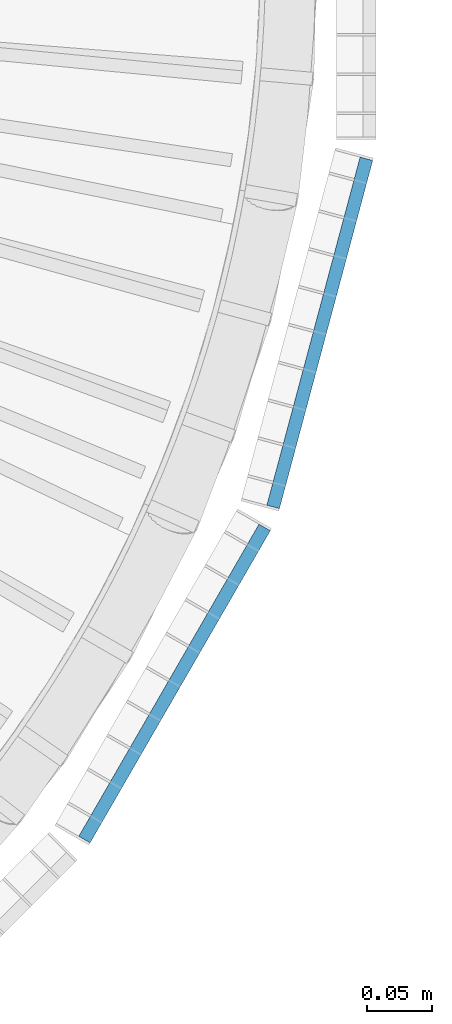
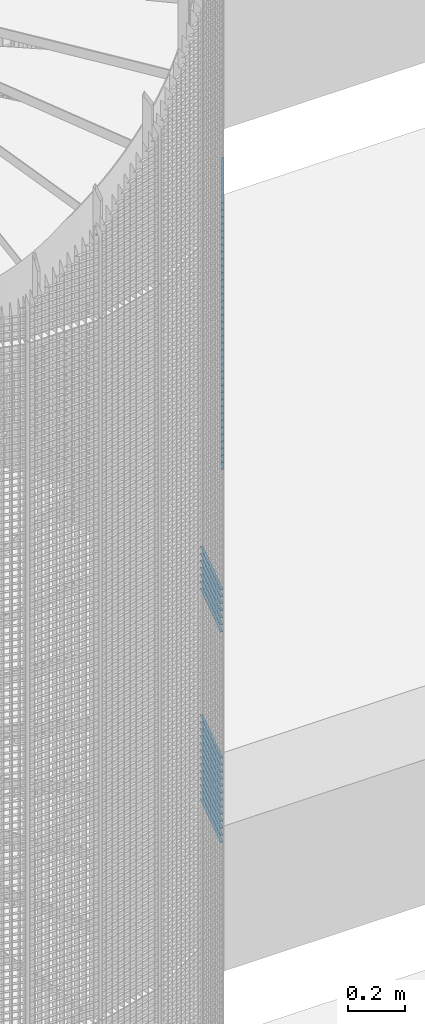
# One storey, part 238 of 1183: 59 beams, 2 elements without a shape of their own.
"""IFC2X3 building model written with IfcOpenShell, lengths in millimetres."""

from ifc_helpers import new_model, si_unit, frame, origin_with_axes, origin_2d_with_axis, place, context, subcontext, project, spatial, rectangle, extrude, material, type_object, element, aggregate, save


model = new_model("IFC2X3")

# Units and contexts
model_context = context("Model", 3, precision=1e-05, world=origin_with_axes())
body_context = subcontext(model_context, "Body", "Model", "MODEL_VIEW")
ifc_project = project(units=[si_unit("LENGTHUNIT", "METRE", prefix="MILLI"), si_unit("AREAUNIT", "SQUARE_METRE"), si_unit("VOLUMEUNIT", "CUBIC_METRE"), si_unit("MASSUNIT", "GRAM", prefix="KILO"), si_unit("TIMEUNIT", "SECOND"), si_unit("PLANEANGLEUNIT", "RADIAN"), si_unit("SOLIDANGLEUNIT", "STERADIAN"), si_unit("THERMODYNAMICTEMPERATUREUNIT", "DEGREE_CELSIUS"), si_unit("LUMINOUSINTENSITYUNIT", "LUMEN")], contexts=[model_context])

# Site, building, storey
site_placement = place(None, origin_with_axes())
site = spatial("IfcSite", under=ifc_project, at=site_placement, Name="Undefined", CompositionType="ELEMENT")
building_placement = place(site_placement, origin_with_axes())
building = spatial("IfcBuilding", under=site, at=building_placement, Name="Undefined", CompositionType="ELEMENT")
storey_placement = place(building_placement, origin_with_axes())
storey = spatial("IfcBuildingStorey", under=building, at=storey_placement, Name="Undefined", CompositionType="ELEMENT", Elevation=0.0)

# Assembly, beams
assembly_1_placement = place(storey_placement, origin_with_axes())
assembly_1 = element("IfcElementAssembly", 1, at=assembly_1_placement, inside=storey, Name="BORDURE", AssemblyPlace="NOTDEFINED", PredefinedType="NOTDEFINED")
ifc_material = material(Name="STEEL/S235JR")
beam_type = type_object("IfcBeamType", Name="PL2*10", PredefinedType="NOTDEFINED")
beam_1_placement = place(assembly_1_placement, frame((1039.82309522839, -421.483733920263, 12390.0), z_axis=(0.965925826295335, -0.258819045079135, 0.0), x_axis=(0.258819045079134, 0.965925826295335, 0.0)))
beam_1 = element("IfcBeam", 2, at=beam_1_placement, type_object=beam_type, material=ifc_material, Name="ENTRETOISE", context=body_context, shape_type="SweptSolid", body=[
    extrude(rectangle(XDim=2.0, YDim=10.0, at=origin_2d_with_axis()), frame((275.999999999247, 9.09494701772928e-13, 1.53210777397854e-14), z_axis=(-1.0, 0.0, 0.0), x_axis=(0.0, -1.0, 0.0)), (0.0, 0.0, 1.0), 276.0),
])
beam_2_placement = place(assembly_1_placement, frame((1039.82309522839, -421.483733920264, 12930.0), z_axis=(0.965925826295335, -0.258819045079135, 0.0), x_axis=(0.258819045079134, 0.965925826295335, 0.0)))
beam_2 = element("IfcBeam", 3, at=beam_2_placement, type_object=beam_type, material=ifc_material, Name="ENTRETOISE", context=body_context, shape_type="SweptSolid", body=[
    extrude(rectangle(XDim=2.0, YDim=10.0, at=origin_2d_with_axis()), frame((275.999999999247, 9.09494701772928e-13, 1.53210777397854e-14), z_axis=(-1.0, 0.0, 0.0), x_axis=(0.0, -1.0, 0.0)), (0.0, 0.0, 1.0), 276.0),
])
beam_3_placement = place(assembly_1_placement, frame((1039.82309522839, -421.483733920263, 12360.0), z_axis=(0.965925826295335, -0.258819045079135, 0.0), x_axis=(0.258819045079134, 0.965925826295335, 0.0)))
beam_3 = element("IfcBeam", 4, at=beam_3_placement, type_object=beam_type, material=ifc_material, Name="ENTRETOISE", context=body_context, shape_type="SweptSolid", body=[
    extrude(rectangle(XDim=2.0, YDim=10.0, at=origin_2d_with_axis()), frame((275.999999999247, 9.09494701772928e-13, 1.53210777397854e-14), z_axis=(-1.0, 0.0, 0.0), x_axis=(0.0, -1.0, 0.0)), (0.0, 0.0, 1.0), 276.0),
])
beam_4_placement = place(assembly_1_placement, frame((1039.82309522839, -421.483733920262, 12330.0), z_axis=(0.965925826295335, -0.258819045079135, 0.0), x_axis=(0.258819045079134, 0.965925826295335, 0.0)))
beam_4 = element("IfcBeam", 5, at=beam_4_placement, type_object=beam_type, material=ifc_material, Name="ENTRETOISE", context=body_context, shape_type="SweptSolid", body=[
    extrude(rectangle(XDim=2.0, YDim=10.0, at=origin_2d_with_axis()), frame((275.999999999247, 9.09494701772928e-13, 1.53210777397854e-14), z_axis=(-1.0, 0.0, 0.0), x_axis=(0.0, -1.0, 0.0)), (0.0, 0.0, 1.0), 276.0),
])
beam_5_placement = place(assembly_1_placement, frame((1039.82309522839, -421.483733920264, 12960.0), z_axis=(0.965925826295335, -0.258819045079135, 0.0), x_axis=(0.258819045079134, 0.965925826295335, 0.0)))
beam_5 = element("IfcBeam", 6, at=beam_5_placement, type_object=beam_type, material=ifc_material, Name="ENTRETOISE", context=body_context, shape_type="SweptSolid", body=[
    extrude(rectangle(XDim=2.0, YDim=10.0, at=origin_2d_with_axis()), frame((275.999999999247, 9.09494701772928e-13, 1.53210777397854e-14), z_axis=(-1.0, 0.0, 0.0), x_axis=(0.0, -1.0, 0.0)), (0.0, 0.0, 1.0), 276.0),
])
beam_6_placement = place(assembly_1_placement, frame((1039.82309522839, -421.483733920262, 12300.0), z_axis=(0.965925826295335, -0.258819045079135, 0.0), x_axis=(0.258819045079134, 0.965925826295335, 0.0)))
beam_6 = element("IfcBeam", 7, at=beam_6_placement, type_object=beam_type, material=ifc_material, Name="ENTRETOISE", context=body_context, shape_type="SweptSolid", body=[
    extrude(rectangle(XDim=2.0, YDim=10.0, at=origin_2d_with_axis()), frame((275.999999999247, 9.09494701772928e-13, 1.53210777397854e-14), z_axis=(-1.0, 0.0, 0.0), x_axis=(0.0, -1.0, 0.0)), (0.0, 0.0, 1.0), 276.0),
])
beam_7_placement = place(assembly_1_placement, frame((1039.82309522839, -421.483733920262, 12270.0), z_axis=(0.965925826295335, -0.258819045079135, 0.0), x_axis=(0.258819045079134, 0.965925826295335, 0.0)))
beam_7 = element("IfcBeam", 8, at=beam_7_placement, type_object=beam_type, material=ifc_material, Name="ENTRETOISE", context=body_context, shape_type="SweptSolid", body=[
    extrude(rectangle(XDim=2.0, YDim=10.0, at=origin_2d_with_axis()), frame((275.999999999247, 9.09494701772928e-13, 1.53210777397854e-14), z_axis=(-1.0, 0.0, 0.0), x_axis=(0.0, -1.0, 0.0)), (0.0, 0.0, 1.0), 276.0),
])
beam_8_placement = place(assembly_1_placement, frame((1039.82309522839, -421.483733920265, 12990.0), z_axis=(0.965925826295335, -0.258819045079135, 0.0), x_axis=(0.258819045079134, 0.965925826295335, 0.0)))
beam_8 = element("IfcBeam", 9, at=beam_8_placement, type_object=beam_type, material=ifc_material, Name="ENTRETOISE", context=body_context, shape_type="SweptSolid", body=[
    extrude(rectangle(XDim=2.0, YDim=10.0, at=origin_2d_with_axis()), frame((275.999999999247, 9.09494701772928e-13, 1.53210777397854e-14), z_axis=(-1.0, 0.0, 0.0), x_axis=(0.0, -1.0, 0.0)), (0.0, 0.0, 1.0), 276.0),
])
beam_9_placement = place(assembly_1_placement, frame((1039.82309522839, -421.483733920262, 12240.0), z_axis=(0.965925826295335, -0.258819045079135, 0.0), x_axis=(0.258819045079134, 0.965925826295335, 0.0)))
beam_9 = element("IfcBeam", 10, at=beam_9_placement, type_object=beam_type, material=ifc_material, Name="ENTRETOISE", context=body_context, shape_type="SweptSolid", body=[
    extrude(rectangle(XDim=2.0, YDim=10.0, at=origin_2d_with_axis()), frame((275.999999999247, 9.09494701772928e-13, 1.53210777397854e-14), z_axis=(-1.0, 0.0, 0.0), x_axis=(0.0, -1.0, 0.0)), (0.0, 0.0, 1.0), 276.0),
])
beam_10_placement = place(assembly_1_placement, frame((1039.82309522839, -421.483733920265, 13020.0), z_axis=(0.965925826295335, -0.258819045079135, 0.0), x_axis=(0.258819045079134, 0.965925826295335, 0.0)))
beam_10 = element("IfcBeam", 11, at=beam_10_placement, type_object=beam_type, material=ifc_material, Name="ENTRETOISE", context=body_context, shape_type="SweptSolid", body=[
    extrude(rectangle(XDim=2.0, YDim=10.0, at=origin_2d_with_axis()), frame((275.999999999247, 9.09494701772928e-13, 1.53210777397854e-14), z_axis=(-1.0, 0.0, 0.0), x_axis=(0.0, -1.0, 0.0)), (0.0, 0.0, 1.0), 276.0),
])
beam_11_placement = place(assembly_1_placement, frame((1039.82309522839, -421.483733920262, 12210.0), z_axis=(0.965925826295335, -0.258819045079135, 0.0), x_axis=(0.258819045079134, 0.965925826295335, 0.0)))
beam_11 = element("IfcBeam", 12, at=beam_11_placement, type_object=beam_type, material=ifc_material, Name="ENTRETOISE", context=body_context, shape_type="SweptSolid", body=[
    extrude(rectangle(XDim=2.0, YDim=10.0, at=origin_2d_with_axis()), frame((275.999999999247, 9.09494701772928e-13, 1.53210777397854e-14), z_axis=(-1.0, 0.0, 0.0), x_axis=(0.0, -1.0, 0.0)), (0.0, 0.0, 1.0), 276.0),
])
beam_12_placement = place(assembly_1_placement, frame((1039.82309522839, -421.483733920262, 12180.0), z_axis=(0.965925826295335, -0.258819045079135, 0.0), x_axis=(0.258819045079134, 0.965925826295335, 0.0)))
beam_12 = element("IfcBeam", 13, at=beam_12_placement, type_object=beam_type, material=ifc_material, Name="ENTRETOISE", context=body_context, shape_type="SweptSolid", body=[
    extrude(rectangle(XDim=2.0, YDim=10.0, at=origin_2d_with_axis()), frame((275.999999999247, 9.09494701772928e-13, 1.53210777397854e-14), z_axis=(-1.0, 0.0, 0.0), x_axis=(0.0, -1.0, 0.0)), (0.0, 0.0, 1.0), 276.0),
])
beam_13_placement = place(assembly_1_placement, frame((1039.82309522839, -421.483733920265, 13050.0), z_axis=(0.965925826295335, -0.258819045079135, 0.0), x_axis=(0.258819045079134, 0.965925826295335, 0.0)))
beam_13 = element("IfcBeam", 14, at=beam_13_placement, type_object=beam_type, material=ifc_material, Name="ENTRETOISE", context=body_context, shape_type="SweptSolid", body=[
    extrude(rectangle(XDim=2.0, YDim=10.0, at=origin_2d_with_axis()), frame((275.999999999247, 9.09494701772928e-13, 1.53210777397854e-14), z_axis=(-1.0, 0.0, 0.0), x_axis=(0.0, -1.0, 0.0)), (0.0, 0.0, 1.0), 276.0),
])
beam_14_placement = place(assembly_1_placement, frame((1039.82309522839, -421.483733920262, 12150.0), z_axis=(0.965925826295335, -0.258819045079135, 0.0), x_axis=(0.258819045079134, 0.965925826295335, 0.0)))
beam_14 = element("IfcBeam", 15, at=beam_14_placement, type_object=beam_type, material=ifc_material, Name="ENTRETOISE", context=body_context, shape_type="SweptSolid", body=[
    extrude(rectangle(XDim=2.0, YDim=10.0, at=origin_2d_with_axis()), frame((275.999999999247, 9.09494701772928e-13, 1.53210777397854e-14), z_axis=(-1.0, 0.0, 0.0), x_axis=(0.0, -1.0, 0.0)), (0.0, 0.0, 1.0), 276.0),
])
beam_15_placement = place(assembly_1_placement, frame((1039.82309522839, -421.483733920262, 12120.0), z_axis=(0.965925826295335, -0.258819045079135, 0.0), x_axis=(0.258819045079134, 0.965925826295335, 0.0)))
beam_15 = element("IfcBeam", 16, at=beam_15_placement, type_object=beam_type, material=ifc_material, Name="ENTRETOISE", context=body_context, shape_type="SweptSolid", body=[
    extrude(rectangle(XDim=2.0, YDim=10.0, at=origin_2d_with_axis()), frame((275.999999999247, 9.09494701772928e-13, 1.53210777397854e-14), z_axis=(-1.0, 0.0, 0.0), x_axis=(0.0, -1.0, 0.0)), (0.0, 0.0, 1.0), 276.0),
])
beam_16_placement = place(assembly_1_placement, frame((1039.82309522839, -421.483733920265, 13080.0), z_axis=(0.965925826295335, -0.258819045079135, 0.0), x_axis=(0.258819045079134, 0.965925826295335, 0.0)))
beam_16 = element("IfcBeam", 17, at=beam_16_placement, type_object=beam_type, material=ifc_material, Name="ENTRETOISE", context=body_context, shape_type="SweptSolid", body=[
    extrude(rectangle(XDim=2.0, YDim=10.0, at=origin_2d_with_axis()), frame((275.999999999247, 9.09494701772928e-13, 1.53210777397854e-14), z_axis=(-1.0, 0.0, 0.0), x_axis=(0.0, -1.0, 0.0)), (0.0, 0.0, 1.0), 276.0),
])
beam_17_placement = place(assembly_1_placement, frame((1039.82309522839, -421.483733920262, 12090.0), z_axis=(0.965925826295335, -0.258819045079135, 0.0), x_axis=(0.258819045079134, 0.965925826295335, 0.0)))
beam_17 = element("IfcBeam", 18, at=beam_17_placement, type_object=beam_type, material=ifc_material, Name="ENTRETOISE", context=body_context, shape_type="SweptSolid", body=[
    extrude(rectangle(XDim=2.0, YDim=10.0, at=origin_2d_with_axis()), frame((275.999999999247, 9.09494701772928e-13, 1.53210777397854e-14), z_axis=(-1.0, 0.0, 0.0), x_axis=(0.0, -1.0, 0.0)), (0.0, 0.0, 1.0), 276.0),
])
beam_18_placement = place(assembly_1_placement, frame((1039.82309522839, -421.483733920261, 12060.0), z_axis=(0.965925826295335, -0.258819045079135, 0.0), x_axis=(0.258819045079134, 0.965925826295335, 0.0)))
beam_18 = element("IfcBeam", 19, at=beam_18_placement, type_object=beam_type, material=ifc_material, Name="ENTRETOISE", context=body_context, shape_type="SweptSolid", body=[
    extrude(rectangle(XDim=2.0, YDim=10.0, at=origin_2d_with_axis()), frame((275.999999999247, 9.09494701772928e-13, 1.53210777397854e-14), z_axis=(-1.0, 0.0, 0.0), x_axis=(0.0, -1.0, 0.0)), (0.0, 0.0, 1.0), 276.0),
])
beam_19_placement = place(assembly_1_placement, frame((1039.82309522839, -421.483733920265, 13110.0), z_axis=(0.965925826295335, -0.258819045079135, 0.0), x_axis=(0.258819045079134, 0.965925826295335, 0.0)))
beam_19 = element("IfcBeam", 20, at=beam_19_placement, type_object=beam_type, material=ifc_material, Name="ENTRETOISE", context=body_context, shape_type="SweptSolid", body=[
    extrude(rectangle(XDim=2.0, YDim=10.0, at=origin_2d_with_axis()), frame((275.999999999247, 9.09494701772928e-13, 1.53210777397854e-14), z_axis=(-1.0, 0.0, 0.0), x_axis=(0.0, -1.0, 0.0)), (0.0, 0.0, 1.0), 276.0),
])
beam_20_placement = place(assembly_1_placement, frame((1039.82309522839, -421.48373392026, 12030.0), z_axis=(0.965925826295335, -0.258819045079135, 0.0), x_axis=(0.258819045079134, 0.965925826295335, 0.0)))
beam_20 = element("IfcBeam", 21, at=beam_20_placement, type_object=beam_type, material=ifc_material, Name="ENTRETOISE", context=body_context, shape_type="SweptSolid", body=[
    extrude(rectangle(XDim=2.0, YDim=10.0, at=origin_2d_with_axis()), frame((275.999999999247, 9.09494701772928e-13, 1.53210777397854e-14), z_axis=(-1.0, 0.0, 0.0), x_axis=(0.0, -1.0, 0.0)), (0.0, 0.0, 1.0), 276.0),
])
aggregate(assembly_1, [beam_1, beam_2, beam_3, beam_4, beam_5, beam_6, beam_7, beam_8, beam_9, beam_10, beam_11, beam_12, beam_13, beam_14, beam_15, beam_16, beam_17, beam_18, beam_19, beam_20])

assembly_2_placement = place(storey_placement, origin_with_axes())
assembly_2 = element("IfcElementAssembly", 22, at=assembly_2_placement, inside=storey, Name="BORDURE", AssemblyPlace="NOTDEFINED", PredefinedType="NOTDEFINED")
beam_21_placement = place(assembly_2_placement, frame((895.303964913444, -676.248044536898, 14970.0), z_axis=(0.866025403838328, -0.49999999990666, 0.0), x_axis=(0.49999999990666, 0.866025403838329, 0.0)))
beam_21 = element("IfcBeam", 23, at=beam_21_placement, type_object=beam_type, material=ifc_material, Name="ENTRETOISE", context=body_context, shape_type="SweptSolid", body=[
    extrude(rectangle(XDim=2.0, YDim=10.0, at=origin_2d_with_axis()), frame((275.999999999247, 9.09494701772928e-13, 1.53210777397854e-14), z_axis=(-1.0, 0.0, 0.0), x_axis=(0.0, -1.0, 0.0)), (0.0, 0.0, 1.0), 276.0),
])
beam_22_placement = place(assembly_2_placement, frame((895.303964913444, -676.248044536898, 14940.0), z_axis=(0.866025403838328, -0.49999999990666, 0.0), x_axis=(0.49999999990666, 0.866025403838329, 0.0)))
beam_22 = element("IfcBeam", 24, at=beam_22_placement, type_object=beam_type, material=ifc_material, Name="ENTRETOISE", context=body_context, shape_type="SweptSolid", body=[
    extrude(rectangle(XDim=2.0, YDim=10.0, at=origin_2d_with_axis()), frame((275.999999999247, 9.09494701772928e-13, 1.53210777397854e-14), z_axis=(-1.0, 0.0, 0.0), x_axis=(0.0, -1.0, 0.0)), (0.0, 0.0, 1.0), 276.0),
])
beam_23_placement = place(assembly_2_placement, frame((895.303964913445, -676.248044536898, 14910.0), z_axis=(0.866025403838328, -0.49999999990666, 0.0), x_axis=(0.49999999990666, 0.866025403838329, 0.0)))
beam_23 = element("IfcBeam", 25, at=beam_23_placement, type_object=beam_type, material=ifc_material, Name="ENTRETOISE", context=body_context, shape_type="SweptSolid", body=[
    extrude(rectangle(XDim=2.0, YDim=10.0, at=origin_2d_with_axis()), frame((275.999999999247, 9.09494701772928e-13, 1.53210777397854e-14), z_axis=(-1.0, 0.0, 0.0), x_axis=(0.0, -1.0, 0.0)), (0.0, 0.0, 1.0), 276.0),
])
beam_24_placement = place(assembly_2_placement, frame((895.303964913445, -676.248044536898, 14880.0), z_axis=(0.866025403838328, -0.49999999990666, 0.0), x_axis=(0.49999999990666, 0.866025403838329, 0.0)))
beam_24 = element("IfcBeam", 26, at=beam_24_placement, type_object=beam_type, material=ifc_material, Name="ENTRETOISE", context=body_context, shape_type="SweptSolid", body=[
    extrude(rectangle(XDim=2.0, YDim=10.0, at=origin_2d_with_axis()), frame((275.999999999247, 9.09494701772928e-13, 1.53210777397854e-14), z_axis=(-1.0, 0.0, 0.0), x_axis=(0.0, -1.0, 0.0)), (0.0, 0.0, 1.0), 276.0),
])
beam_25_placement = place(assembly_2_placement, frame((895.303964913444, -676.248044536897, 14850.0), z_axis=(0.866025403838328, -0.49999999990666, 0.0), x_axis=(0.49999999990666, 0.866025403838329, 0.0)))
beam_25 = element("IfcBeam", 27, at=beam_25_placement, type_object=beam_type, material=ifc_material, Name="ENTRETOISE", context=body_context, shape_type="SweptSolid", body=[
    extrude(rectangle(XDim=2.0, YDim=10.0, at=origin_2d_with_axis()), frame((275.999999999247, 9.09494701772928e-13, 1.53210777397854e-14), z_axis=(-1.0, 0.0, 0.0), x_axis=(0.0, -1.0, 0.0)), (0.0, 0.0, 1.0), 276.0),
])
beam_26_placement = place(assembly_2_placement, frame((895.303964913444, -676.248044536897, 14820.0), z_axis=(0.866025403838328, -0.49999999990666, 0.0), x_axis=(0.49999999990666, 0.866025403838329, 0.0)))
beam_26 = element("IfcBeam", 28, at=beam_26_placement, type_object=beam_type, material=ifc_material, Name="ENTRETOISE", context=body_context, shape_type="SweptSolid", body=[
    extrude(rectangle(XDim=2.0, YDim=10.0, at=origin_2d_with_axis()), frame((275.999999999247, 9.09494701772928e-13, 1.53210777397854e-14), z_axis=(-1.0, 0.0, 0.0), x_axis=(0.0, -1.0, 0.0)), (0.0, 0.0, 1.0), 276.0),
])
beam_27_placement = place(assembly_2_placement, frame((895.303964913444, -676.248044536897, 14790.0), z_axis=(0.866025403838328, -0.49999999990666, 0.0), x_axis=(0.49999999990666, 0.866025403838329, 0.0)))
beam_27 = element("IfcBeam", 29, at=beam_27_placement, type_object=beam_type, material=ifc_material, Name="ENTRETOISE", context=body_context, shape_type="SweptSolid", body=[
    extrude(rectangle(XDim=2.0, YDim=10.0, at=origin_2d_with_axis()), frame((275.999999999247, 9.09494701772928e-13, 1.53210777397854e-14), z_axis=(-1.0, 0.0, 0.0), x_axis=(0.0, -1.0, 0.0)), (0.0, 0.0, 1.0), 276.0),
])
beam_28_placement = place(assembly_2_placement, frame((895.303964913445, -676.248044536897, 14760.0), z_axis=(0.866025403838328, -0.49999999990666, 0.0), x_axis=(0.49999999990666, 0.866025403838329, 0.0)))
beam_28 = element("IfcBeam", 30, at=beam_28_placement, type_object=beam_type, material=ifc_material, Name="ENTRETOISE", context=body_context, shape_type="SweptSolid", body=[
    extrude(rectangle(XDim=2.0, YDim=10.0, at=origin_2d_with_axis()), frame((275.999999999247, 9.09494701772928e-13, 1.53210777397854e-14), z_axis=(-1.0, 0.0, 0.0), x_axis=(0.0, -1.0, 0.0)), (0.0, 0.0, 1.0), 276.0),
])
beam_29_placement = place(assembly_2_placement, frame((895.303964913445, -676.248044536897, 14730.0), z_axis=(0.866025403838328, -0.49999999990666, 0.0), x_axis=(0.49999999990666, 0.866025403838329, 0.0)))
beam_29 = element("IfcBeam", 31, at=beam_29_placement, type_object=beam_type, material=ifc_material, Name="ENTRETOISE", context=body_context, shape_type="SweptSolid", body=[
    extrude(rectangle(XDim=2.0, YDim=10.0, at=origin_2d_with_axis()), frame((275.999999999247, 9.09494701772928e-13, 1.53210777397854e-14), z_axis=(-1.0, 0.0, 0.0), x_axis=(0.0, -1.0, 0.0)), (0.0, 0.0, 1.0), 276.0),
])
beam_30_placement = place(assembly_2_placement, frame((895.303964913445, -676.248044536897, 14700.0), z_axis=(0.866025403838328, -0.49999999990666, 0.0), x_axis=(0.49999999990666, 0.866025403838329, 0.0)))
beam_30 = element("IfcBeam", 32, at=beam_30_placement, type_object=beam_type, material=ifc_material, Name="ENTRETOISE", context=body_context, shape_type="SweptSolid", body=[
    extrude(rectangle(XDim=2.0, YDim=10.0, at=origin_2d_with_axis()), frame((275.999999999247, 9.09494701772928e-13, 1.53210777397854e-14), z_axis=(-1.0, 0.0, 0.0), x_axis=(0.0, -1.0, 0.0)), (0.0, 0.0, 1.0), 276.0),
])
beam_31_placement = place(assembly_2_placement, frame((895.303964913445, -676.248044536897, 14670.0), z_axis=(0.866025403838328, -0.49999999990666, 0.0), x_axis=(0.49999999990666, 0.866025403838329, 0.0)))
beam_31 = element("IfcBeam", 33, at=beam_31_placement, type_object=beam_type, material=ifc_material, Name="ENTRETOISE", context=body_context, shape_type="SweptSolid", body=[
    extrude(rectangle(XDim=2.0, YDim=10.0, at=origin_2d_with_axis()), frame((275.999999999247, 9.09494701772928e-13, 1.53210777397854e-14), z_axis=(-1.0, 0.0, 0.0), x_axis=(0.0, -1.0, 0.0)), (0.0, 0.0, 1.0), 276.0),
])
beam_32_placement = place(assembly_2_placement, frame((895.303964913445, -676.248044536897, 14640.0), z_axis=(0.866025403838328, -0.49999999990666, 0.0), x_axis=(0.49999999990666, 0.866025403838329, 0.0)))
beam_32 = element("IfcBeam", 34, at=beam_32_placement, type_object=beam_type, material=ifc_material, Name="ENTRETOISE", context=body_context, shape_type="SweptSolid", body=[
    extrude(rectangle(XDim=2.0, YDim=10.0, at=origin_2d_with_axis()), frame((275.999999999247, 9.09494701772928e-13, 1.53210777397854e-14), z_axis=(-1.0, 0.0, 0.0), x_axis=(0.0, -1.0, 0.0)), (0.0, 0.0, 1.0), 276.0),
])
beam_33_placement = place(assembly_2_placement, frame((895.303964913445, -676.248044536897, 14610.0), z_axis=(0.866025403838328, -0.49999999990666, 0.0), x_axis=(0.49999999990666, 0.866025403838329, 0.0)))
beam_33 = element("IfcBeam", 35, at=beam_33_placement, type_object=beam_type, material=ifc_material, Name="ENTRETOISE", context=body_context, shape_type="SweptSolid", body=[
    extrude(rectangle(XDim=2.0, YDim=10.0, at=origin_2d_with_axis()), frame((275.999999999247, 9.09494701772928e-13, 1.53210777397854e-14), z_axis=(-1.0, 0.0, 0.0), x_axis=(0.0, -1.0, 0.0)), (0.0, 0.0, 1.0), 276.0),
])
beam_34_placement = place(assembly_2_placement, frame((895.303964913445, -676.248044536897, 14580.0), z_axis=(0.866025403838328, -0.49999999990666, 0.0), x_axis=(0.49999999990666, 0.866025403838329, 0.0)))
beam_34 = element("IfcBeam", 36, at=beam_34_placement, type_object=beam_type, material=ifc_material, Name="ENTRETOISE", context=body_context, shape_type="SweptSolid", body=[
    extrude(rectangle(XDim=2.0, YDim=10.0, at=origin_2d_with_axis()), frame((275.999999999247, 9.09494701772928e-13, 1.53210777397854e-14), z_axis=(-1.0, 0.0, 0.0), x_axis=(0.0, -1.0, 0.0)), (0.0, 0.0, 1.0), 276.0),
])
beam_35_placement = place(assembly_2_placement, frame((895.303964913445, -676.248044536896, 14550.0), z_axis=(0.866025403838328, -0.49999999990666, 0.0), x_axis=(0.49999999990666, 0.866025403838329, 0.0)))
beam_35 = element("IfcBeam", 37, at=beam_35_placement, type_object=beam_type, material=ifc_material, Name="ENTRETOISE", context=body_context, shape_type="SweptSolid", body=[
    extrude(rectangle(XDim=2.0, YDim=10.0, at=origin_2d_with_axis()), frame((275.999999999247, 9.09494701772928e-13, 1.53210777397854e-14), z_axis=(-1.0, 0.0, 0.0), x_axis=(0.0, -1.0, 0.0)), (0.0, 0.0, 1.0), 276.0),
])
beam_36_placement = place(assembly_2_placement, frame((895.303964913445, -676.248044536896, 14520.0), z_axis=(0.866025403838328, -0.49999999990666, 0.0), x_axis=(0.49999999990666, 0.866025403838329, 0.0)))
beam_36 = element("IfcBeam", 38, at=beam_36_placement, type_object=beam_type, material=ifc_material, Name="ENTRETOISE", context=body_context, shape_type="SweptSolid", body=[
    extrude(rectangle(XDim=2.0, YDim=10.0, at=origin_2d_with_axis()), frame((275.999999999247, 9.09494701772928e-13, 1.53210777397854e-14), z_axis=(-1.0, 0.0, 0.0), x_axis=(0.0, -1.0, 0.0)), (0.0, 0.0, 1.0), 276.0),
])
beam_37_placement = place(assembly_2_placement, frame((895.303964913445, -676.248044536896, 14490.0), z_axis=(0.866025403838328, -0.49999999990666, 0.0), x_axis=(0.49999999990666, 0.866025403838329, 0.0)))
beam_37 = element("IfcBeam", 39, at=beam_37_placement, type_object=beam_type, material=ifc_material, Name="ENTRETOISE", context=body_context, shape_type="SweptSolid", body=[
    extrude(rectangle(XDim=2.0, YDim=10.0, at=origin_2d_with_axis()), frame((275.999999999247, 9.09494701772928e-13, 1.53210777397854e-14), z_axis=(-1.0, 0.0, 0.0), x_axis=(0.0, -1.0, 0.0)), (0.0, 0.0, 1.0), 276.0),
])
beam_38_placement = place(assembly_2_placement, frame((895.303964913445, -676.248044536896, 14460.0), z_axis=(0.866025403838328, -0.49999999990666, 0.0), x_axis=(0.49999999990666, 0.866025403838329, 0.0)))
beam_38 = element("IfcBeam", 40, at=beam_38_placement, type_object=beam_type, material=ifc_material, Name="ENTRETOISE", context=body_context, shape_type="SweptSolid", body=[
    extrude(rectangle(XDim=2.0, YDim=10.0, at=origin_2d_with_axis()), frame((275.999999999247, 9.09494701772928e-13, 1.53210777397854e-14), z_axis=(-1.0, 0.0, 0.0), x_axis=(0.0, -1.0, 0.0)), (0.0, 0.0, 1.0), 276.0),
])
beam_39_placement = place(assembly_2_placement, frame((895.303964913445, -676.248044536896, 14430.0), z_axis=(0.866025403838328, -0.49999999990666, 0.0), x_axis=(0.49999999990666, 0.866025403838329, 0.0)))
beam_39 = element("IfcBeam", 41, at=beam_39_placement, type_object=beam_type, material=ifc_material, Name="ENTRETOISE", context=body_context, shape_type="SweptSolid", body=[
    extrude(rectangle(XDim=2.0, YDim=10.0, at=origin_2d_with_axis()), frame((275.999999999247, 9.09494701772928e-13, 1.53210777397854e-14), z_axis=(-1.0, 0.0, 0.0), x_axis=(0.0, -1.0, 0.0)), (0.0, 0.0, 1.0), 276.0),
])
beam_40_placement = place(assembly_2_placement, frame((895.303964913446, -676.248044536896, 14400.0), z_axis=(0.866025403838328, -0.49999999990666, 0.0), x_axis=(0.49999999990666, 0.866025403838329, 0.0)))
beam_40 = element("IfcBeam", 42, at=beam_40_placement, type_object=beam_type, material=ifc_material, Name="ENTRETOISE", context=body_context, shape_type="SweptSolid", body=[
    extrude(rectangle(XDim=2.0, YDim=10.0, at=origin_2d_with_axis()), frame((275.999999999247, 9.09494701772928e-13, 1.53210777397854e-14), z_axis=(-1.0, 0.0, 0.0), x_axis=(0.0, -1.0, 0.0)), (0.0, 0.0, 1.0), 276.0),
])
beam_41_placement = place(assembly_2_placement, frame((895.303964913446, -676.248044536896, 14370.0), z_axis=(0.866025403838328, -0.49999999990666, 0.0), x_axis=(0.49999999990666, 0.866025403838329, 0.0)))
beam_41 = element("IfcBeam", 43, at=beam_41_placement, type_object=beam_type, material=ifc_material, Name="ENTRETOISE", context=body_context, shape_type="SweptSolid", body=[
    extrude(rectangle(XDim=2.0, YDim=10.0, at=origin_2d_with_axis()), frame((275.999999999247, 9.09494701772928e-13, 1.53210777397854e-14), z_axis=(-1.0, 0.0, 0.0), x_axis=(0.0, -1.0, 0.0)), (0.0, 0.0, 1.0), 276.0),
])
beam_42_placement = place(assembly_2_placement, frame((895.303964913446, -676.248044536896, 14340.0), z_axis=(0.866025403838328, -0.49999999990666, 0.0), x_axis=(0.49999999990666, 0.866025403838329, 0.0)))
beam_42 = element("IfcBeam", 44, at=beam_42_placement, type_object=beam_type, material=ifc_material, Name="ENTRETOISE", context=body_context, shape_type="SweptSolid", body=[
    extrude(rectangle(XDim=2.0, YDim=10.0, at=origin_2d_with_axis()), frame((275.999999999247, 9.09494701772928e-13, 1.53210777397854e-14), z_axis=(-1.0, 0.0, 0.0), x_axis=(0.0, -1.0, 0.0)), (0.0, 0.0, 1.0), 276.0),
])
beam_43_placement = place(assembly_2_placement, frame((895.303964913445, -676.248044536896, 14310.0), z_axis=(0.866025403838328, -0.49999999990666, 0.0), x_axis=(0.49999999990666, 0.866025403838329, 0.0)))
beam_43 = element("IfcBeam", 45, at=beam_43_placement, type_object=beam_type, material=ifc_material, Name="ENTRETOISE", context=body_context, shape_type="SweptSolid", body=[
    extrude(rectangle(XDim=2.0, YDim=10.0, at=origin_2d_with_axis()), frame((275.999999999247, 9.09494701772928e-13, 1.53210777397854e-14), z_axis=(-1.0, 0.0, 0.0), x_axis=(0.0, -1.0, 0.0)), (0.0, 0.0, 1.0), 276.0),
])
beam_44_placement = place(assembly_2_placement, frame((895.303964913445, -676.248044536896, 14280.0), z_axis=(0.866025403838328, -0.49999999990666, 0.0), x_axis=(0.49999999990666, 0.866025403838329, 0.0)))
beam_44 = element("IfcBeam", 46, at=beam_44_placement, type_object=beam_type, material=ifc_material, Name="ENTRETOISE", context=body_context, shape_type="SweptSolid", body=[
    extrude(rectangle(XDim=2.0, YDim=10.0, at=origin_2d_with_axis()), frame((275.999999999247, 9.09494701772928e-13, 1.53210777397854e-14), z_axis=(-1.0, 0.0, 0.0), x_axis=(0.0, -1.0, 0.0)), (0.0, 0.0, 1.0), 276.0),
])
beam_45_placement = place(assembly_2_placement, frame((895.303964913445, -676.248044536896, 14250.0), z_axis=(0.866025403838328, -0.49999999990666, 0.0), x_axis=(0.49999999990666, 0.866025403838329, 0.0)))
beam_45 = element("IfcBeam", 47, at=beam_45_placement, type_object=beam_type, material=ifc_material, Name="ENTRETOISE", context=body_context, shape_type="SweptSolid", body=[
    extrude(rectangle(XDim=2.0, YDim=10.0, at=origin_2d_with_axis()), frame((275.999999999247, 9.09494701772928e-13, 1.53210777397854e-14), z_axis=(-1.0, 0.0, 0.0), x_axis=(0.0, -1.0, 0.0)), (0.0, 0.0, 1.0), 276.0),
])
beam_46_placement = place(assembly_2_placement, frame((895.303964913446, -676.248044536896, 14220.0), z_axis=(0.866025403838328, -0.49999999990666, 0.0), x_axis=(0.49999999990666, 0.866025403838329, 0.0)))
beam_46 = element("IfcBeam", 48, at=beam_46_placement, type_object=beam_type, material=ifc_material, Name="ENTRETOISE", context=body_context, shape_type="SweptSolid", body=[
    extrude(rectangle(XDim=2.0, YDim=10.0, at=origin_2d_with_axis()), frame((275.999999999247, 9.09494701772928e-13, 1.53210777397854e-14), z_axis=(-1.0, 0.0, 0.0), x_axis=(0.0, -1.0, 0.0)), (0.0, 0.0, 1.0), 276.0),
])
beam_47_placement = place(assembly_2_placement, frame((895.303964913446, -676.248044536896, 14190.0), z_axis=(0.866025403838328, -0.49999999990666, 0.0), x_axis=(0.49999999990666, 0.866025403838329, 0.0)))
beam_47 = element("IfcBeam", 49, at=beam_47_placement, type_object=beam_type, material=ifc_material, Name="ENTRETOISE", context=body_context, shape_type="SweptSolid", body=[
    extrude(rectangle(XDim=2.0, YDim=10.0, at=origin_2d_with_axis()), frame((275.999999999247, 9.09494701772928e-13, 1.53210777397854e-14), z_axis=(-1.0, 0.0, 0.0), x_axis=(0.0, -1.0, 0.0)), (0.0, 0.0, 1.0), 276.0),
])
beam_48_placement = place(assembly_2_placement, frame((895.303964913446, -676.248044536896, 14160.0), z_axis=(0.866025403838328, -0.49999999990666, 0.0), x_axis=(0.49999999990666, 0.866025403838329, 0.0)))
beam_48 = element("IfcBeam", 50, at=beam_48_placement, type_object=beam_type, material=ifc_material, Name="ENTRETOISE", context=body_context, shape_type="SweptSolid", body=[
    extrude(rectangle(XDim=2.0, YDim=10.0, at=origin_2d_with_axis()), frame((275.999999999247, 9.09494701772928e-13, 1.53210777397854e-14), z_axis=(-1.0, 0.0, 0.0), x_axis=(0.0, -1.0, 0.0)), (0.0, 0.0, 1.0), 276.0),
])
beam_49_placement = place(assembly_2_placement, frame((895.303964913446, -676.248044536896, 14130.0), z_axis=(0.866025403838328, -0.49999999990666, 0.0), x_axis=(0.49999999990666, 0.866025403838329, 0.0)))
beam_49 = element("IfcBeam", 51, at=beam_49_placement, type_object=beam_type, material=ifc_material, Name="ENTRETOISE", context=body_context, shape_type="SweptSolid", body=[
    extrude(rectangle(XDim=2.0, YDim=10.0, at=origin_2d_with_axis()), frame((275.999999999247, 9.09494701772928e-13, 1.53210777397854e-14), z_axis=(-1.0, 0.0, 0.0), x_axis=(0.0, -1.0, 0.0)), (0.0, 0.0, 1.0), 276.0),
])
beam_50_placement = place(assembly_2_placement, frame((895.303964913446, -676.248044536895, 14100.0), z_axis=(0.866025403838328, -0.49999999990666, 0.0), x_axis=(0.49999999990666, 0.866025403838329, 0.0)))
beam_50 = element("IfcBeam", 52, at=beam_50_placement, type_object=beam_type, material=ifc_material, Name="ENTRETOISE", context=body_context, shape_type="SweptSolid", body=[
    extrude(rectangle(XDim=2.0, YDim=10.0, at=origin_2d_with_axis()), frame((275.999999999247, 9.09494701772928e-13, 1.53210777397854e-14), z_axis=(-1.0, 0.0, 0.0), x_axis=(0.0, -1.0, 0.0)), (0.0, 0.0, 1.0), 276.0),
])
beam_51_placement = place(assembly_2_placement, frame((895.303964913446, -676.248044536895, 14070.0), z_axis=(0.866025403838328, -0.49999999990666, 0.0), x_axis=(0.49999999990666, 0.866025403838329, 0.0)))
beam_51 = element("IfcBeam", 53, at=beam_51_placement, type_object=beam_type, material=ifc_material, Name="ENTRETOISE", context=body_context, shape_type="SweptSolid", body=[
    extrude(rectangle(XDim=2.0, YDim=10.0, at=origin_2d_with_axis()), frame((275.999999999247, 9.09494701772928e-13, 1.53210777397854e-14), z_axis=(-1.0, 0.0, 0.0), x_axis=(0.0, -1.0, 0.0)), (0.0, 0.0, 1.0), 276.0),
])
beam_52_placement = place(assembly_2_placement, frame((895.303964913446, -676.248044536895, 14040.0), z_axis=(0.866025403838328, -0.49999999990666, 0.0), x_axis=(0.49999999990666, 0.866025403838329, 0.0)))
beam_52 = element("IfcBeam", 54, at=beam_52_placement, type_object=beam_type, material=ifc_material, Name="ENTRETOISE", context=body_context, shape_type="SweptSolid", body=[
    extrude(rectangle(XDim=2.0, YDim=10.0, at=origin_2d_with_axis()), frame((275.999999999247, 9.09494701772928e-13, 1.53210777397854e-14), z_axis=(-1.0, 0.0, 0.0), x_axis=(0.0, -1.0, 0.0)), (0.0, 0.0, 1.0), 276.0),
])
beam_53_placement = place(assembly_2_placement, frame((895.303964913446, -676.248044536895, 14010.0), z_axis=(0.866025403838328, -0.49999999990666, 0.0), x_axis=(0.49999999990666, 0.866025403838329, 0.0)))
beam_53 = element("IfcBeam", 55, at=beam_53_placement, type_object=beam_type, material=ifc_material, Name="ENTRETOISE", context=body_context, shape_type="SweptSolid", body=[
    extrude(rectangle(XDim=2.0, YDim=10.0, at=origin_2d_with_axis()), frame((275.999999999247, 9.09494701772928e-13, 1.53210777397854e-14), z_axis=(-1.0, 0.0, 0.0), x_axis=(0.0, -1.0, 0.0)), (0.0, 0.0, 1.0), 276.0),
])
beam_54_placement = place(assembly_2_placement, frame((895.303964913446, -676.248044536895, 13980.0), z_axis=(0.866025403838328, -0.49999999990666, 0.0), x_axis=(0.49999999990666, 0.866025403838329, 0.0)))
beam_54 = element("IfcBeam", 56, at=beam_54_placement, type_object=beam_type, material=ifc_material, Name="ENTRETOISE", context=body_context, shape_type="SweptSolid", body=[
    extrude(rectangle(XDim=2.0, YDim=10.0, at=origin_2d_with_axis()), frame((275.999999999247, 9.09494701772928e-13, 1.53210777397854e-14), z_axis=(-1.0, 0.0, 0.0), x_axis=(0.0, -1.0, 0.0)), (0.0, 0.0, 1.0), 276.0),
])
beam_55_placement = place(assembly_2_placement, frame((895.303964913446, -676.248044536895, 13950.0), z_axis=(0.866025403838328, -0.49999999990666, 0.0), x_axis=(0.49999999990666, 0.866025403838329, 0.0)))
beam_55 = element("IfcBeam", 57, at=beam_55_placement, type_object=beam_type, material=ifc_material, Name="ENTRETOISE", context=body_context, shape_type="SweptSolid", body=[
    extrude(rectangle(XDim=2.0, YDim=10.0, at=origin_2d_with_axis()), frame((275.999999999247, 9.09494701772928e-13, 1.53210777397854e-14), z_axis=(-1.0, 0.0, 0.0), x_axis=(0.0, -1.0, 0.0)), (0.0, 0.0, 1.0), 276.0),
])
beam_56_placement = place(assembly_2_placement, frame((895.303964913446, -676.248044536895, 13920.0), z_axis=(0.866025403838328, -0.49999999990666, 0.0), x_axis=(0.49999999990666, 0.866025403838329, 0.0)))
beam_56 = element("IfcBeam", 58, at=beam_56_placement, type_object=beam_type, material=ifc_material, Name="ENTRETOISE", context=body_context, shape_type="SweptSolid", body=[
    extrude(rectangle(XDim=2.0, YDim=10.0, at=origin_2d_with_axis()), frame((275.999999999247, 9.09494701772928e-13, 1.53210777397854e-14), z_axis=(-1.0, 0.0, 0.0), x_axis=(0.0, -1.0, 0.0)), (0.0, 0.0, 1.0), 276.0),
])
beam_57_placement = place(assembly_2_placement, frame((895.303964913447, -676.248044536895, 13890.0), z_axis=(0.866025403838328, -0.49999999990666, 0.0), x_axis=(0.49999999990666, 0.866025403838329, 0.0)))
beam_57 = element("IfcBeam", 59, at=beam_57_placement, type_object=beam_type, material=ifc_material, Name="ENTRETOISE", context=body_context, shape_type="SweptSolid", body=[
    extrude(rectangle(XDim=2.0, YDim=10.0, at=origin_2d_with_axis()), frame((275.999999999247, 9.09494701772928e-13, 1.53210777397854e-14), z_axis=(-1.0, 0.0, 0.0), x_axis=(0.0, -1.0, 0.0)), (0.0, 0.0, 1.0), 276.0),
])
beam_58_placement = place(assembly_2_placement, frame((895.303964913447, -676.248044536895, 13860.0), z_axis=(0.866025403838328, -0.49999999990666, 0.0), x_axis=(0.49999999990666, 0.866025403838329, 0.0)))
beam_58 = element("IfcBeam", 60, at=beam_58_placement, type_object=beam_type, material=ifc_material, Name="ENTRETOISE", context=body_context, shape_type="SweptSolid", body=[
    extrude(rectangle(XDim=2.0, YDim=10.0, at=origin_2d_with_axis()), frame((275.999999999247, 9.09494701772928e-13, 1.53210777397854e-14), z_axis=(-1.0, 0.0, 0.0), x_axis=(0.0, -1.0, 0.0)), (0.0, 0.0, 1.0), 276.0),
])
beam_59_placement = place(assembly_2_placement, frame((895.303964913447, -676.248044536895, 13830.0), z_axis=(0.866025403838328, -0.49999999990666, 0.0), x_axis=(0.49999999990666, 0.866025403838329, 0.0)))
beam_59 = element("IfcBeam", 61, at=beam_59_placement, type_object=beam_type, material=ifc_material, Name="ENTRETOISE", context=body_context, shape_type="SweptSolid", body=[
    extrude(rectangle(XDim=2.0, YDim=10.0, at=origin_2d_with_axis()), frame((275.999999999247, 9.09494701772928e-13, 1.53210777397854e-14), z_axis=(-1.0, 0.0, 0.0), x_axis=(0.0, -1.0, 0.0)), (0.0, 0.0, 1.0), 276.0),
])
aggregate(assembly_2, [beam_21, beam_22, beam_23, beam_24, beam_25, beam_26, beam_27, beam_28, beam_29, beam_30, beam_31, beam_32, beam_33, beam_34, beam_35, beam_36, beam_37, beam_38, beam_39, beam_40, beam_41, beam_42, beam_43, beam_44, beam_45, beam_46, beam_47, beam_48, beam_49, beam_50, beam_51, beam_52, beam_53, beam_54, beam_55, beam_56, beam_57, beam_58, beam_59])

save(model, "model.ifc")
